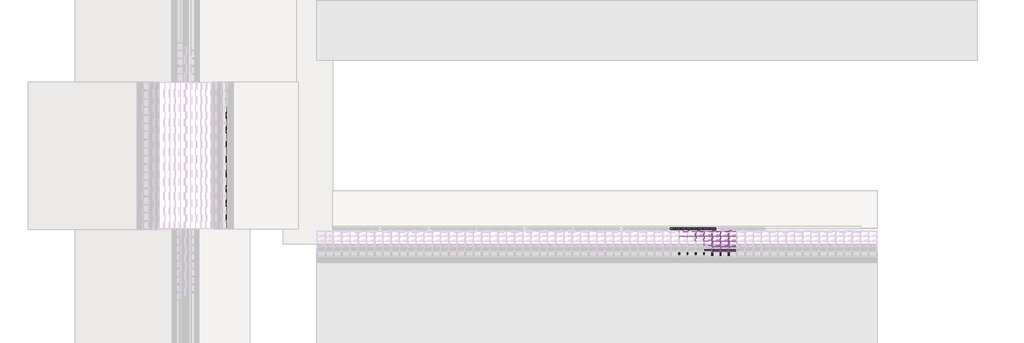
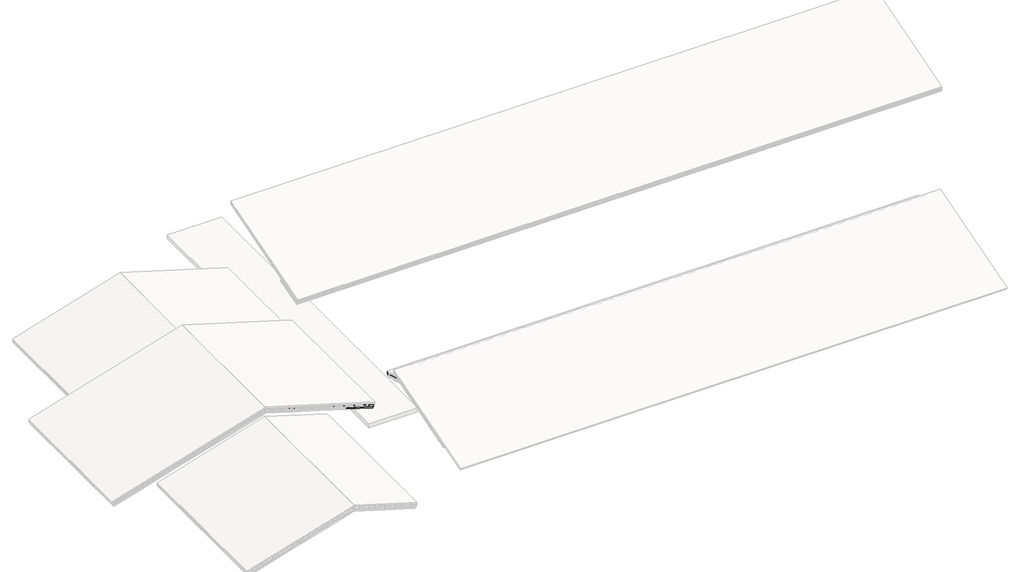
# One storey, part 41 of 57: 63 members, 56 plates, 1 window.
"""IFC4 building model written with IfcOpenShell, lengths in millimetres."""

from ifc_helpers import new_model, si_unit, origin, place, context, project, spatial, transform, mapped, element, save
from components import rectangular_mullion_4c4137b9, rectangular_mullion_59984080, rectangular_mullion_3ac3718c, rectangular_mullion_e6535fec, rectangular_mullion_65d508cb, rectangular_mullion_caibro_df98490b, rectangular_mullion_caibro_e4384bba, rectangular_mullion_caibro_0993a3cf, rectangular_mullion_caibro_650698a1, empty_system_panel_vazio_178faf58, empty_system_panel_vazio_a15e6491, empty_system_panel_vazio_d975564d, empty_system_panel_vazio_18ed3327, empty_system_panel_vazio_0a59da35, window_60306791, window_6c828501, window_02d14e1e

model = new_model("IFC4")

# Units and contexts
model_context = context("Model", 3, world=origin())
ifc_project = project(units=[si_unit("LENGTHUNIT", "METRE", prefix="MILLI")], contexts=[model_context])

# Site, building, storey
site = spatial("IfcSite", under=ifc_project)
building = spatial("IfcBuilding", under=site)
storey = spatial("IfcBuildingStorey", under=building, Name="Nível 2", Elevation=4100.0)

# Members
placement = place(None, origin())
rectangular_mullion_shape = rectangular_mullion_4c4137b9(model_context)
element("IfcMember", 1, ObjectType="Rectangular Mullion : Ripa", at=placement, inside=storey, context=model_context, shape_type="MappedRepresentation", body=[
    mapped(rectangular_mullion_shape, transform((29216.1994477, 15566.1284427, 5819.8877114), x_axis=(0.0, 0.9578262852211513, 0.2873478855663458), y_axis=(0.0, 0.2873478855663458, -0.9578262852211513), z_axis=(-1.0, 0.0, 0.0))),
])
element("IfcMember", 2, ObjectType="Rectangular Mullion : Ripa", at=placement, inside=storey, context=model_context, shape_type="MappedRepresentation", body=[
    mapped(rectangular_mullion_shape, transform((29813.2542041, 15566.1284427, 5819.8877114), x_axis=(0.0, 0.9578262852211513, 0.2873478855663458), y_axis=(0.0, 0.2873478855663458, -0.9578262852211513), z_axis=(-1.0, 0.0, 0.0))),
])
element("IfcMember", 3, ObjectType="Rectangular Mullion : Ripa", at=placement, inside=storey, context=model_context, shape_type="MappedRepresentation", body=[
    mapped(rectangular_mullion_shape, transform((30410.3089606, 15566.1284427, 5819.8877114), x_axis=(0.0, 0.9578262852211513, 0.2873478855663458), y_axis=(0.0, 0.2873478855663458, -0.9578262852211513), z_axis=(-1.0, 0.0, 0.0))),
])
element("IfcMember", 4, ObjectType="Rectangular Mullion : Ripa", at=placement, inside=storey, context=model_context, shape_type="MappedRepresentation", body=[
    mapped(rectangular_mullion_shape, transform((31007.363717, 15566.1284427, 5819.8877114), x_axis=(0.0, 0.9578262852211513, 0.2873478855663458), y_axis=(0.0, 0.2873478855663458, -0.9578262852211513), z_axis=(-1.0, 0.0, 0.0))),
])
element("IfcMember", 5, ObjectType="Rectangular Mullion : Ripa", at=placement, inside=storey, context=model_context, shape_type="MappedRepresentation", body=[
    mapped(rectangular_mullion_shape, transform((31604.4184734, 15566.1284427, 5819.8877114), x_axis=(0.0, 0.9578262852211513, 0.2873478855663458), y_axis=(0.0, 0.2873478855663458, -0.9578262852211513), z_axis=(-1.0, 0.0, 0.0))),
])
rectangular_mullion_2_shape = rectangular_mullion_59984080(model_context)
element("IfcMember", 6, ObjectType="Rectangular Mullion : Ripa", at=placement, inside=storey, context=model_context, shape_type="MappedRepresentation", body=[
    mapped(rectangular_mullion_2_shape, transform((30435.3089606, 14085.4194081, 5375.675001), x_axis=(0.0, 0.9578262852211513, 0.2873478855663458), y_axis=(0.0, 0.2873478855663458, -0.9578262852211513), z_axis=(-1.0, 0.0, 0.0))),
])
element("IfcMember", 7, ObjectType="Rectangular Mullion : Ripa", at=placement, inside=storey, context=model_context, shape_type="MappedRepresentation", body=[
    mapped(rectangular_mullion_2_shape, transform((31032.363717, 14085.4194081, 5375.675001), x_axis=(0.0, 0.9578262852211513, 0.2873478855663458), y_axis=(0.0, 0.2873478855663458, -0.9578262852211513), z_axis=(-1.0, 0.0, 0.0))),
])
element("IfcMember", 8, ObjectType="Rectangular Mullion : Ripa", at=placement, inside=storey, context=model_context, shape_type="MappedRepresentation", body=[
    mapped(rectangular_mullion_2_shape, transform((31629.4184734, 14085.4194081, 5375.675001), x_axis=(0.0, 0.9578262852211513, 0.2873478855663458), y_axis=(0.0, 0.2873478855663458, -0.9578262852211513), z_axis=(-1.0, 0.0, 0.0))),
])
element("IfcMember", 9, ObjectType="Rectangular Mullion : Ripa", at=placement, inside=storey, context=model_context, shape_type="MappedRepresentation", body=[
    mapped(rectangular_mullion_2_shape, transform((30435.3089606, 14455.5966667, 5486.7281786), x_axis=(0.0, 0.9578262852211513, 0.2873478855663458), y_axis=(0.0, 0.2873478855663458, -0.9578262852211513), z_axis=(-1.0, 0.0, 0.0))),
])
element("IfcMember", 10, ObjectType="Rectangular Mullion : Ripa", at=placement, inside=storey, context=model_context, shape_type="MappedRepresentation", body=[
    mapped(rectangular_mullion_2_shape, transform((31032.363717, 14455.5966667, 5486.7281786), x_axis=(0.0, 0.9578262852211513, 0.2873478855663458), y_axis=(0.0, 0.2873478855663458, -0.9578262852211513), z_axis=(-1.0, 0.0, 0.0))),
])
element("IfcMember", 11, ObjectType="Rectangular Mullion : Ripa", at=placement, inside=storey, context=model_context, shape_type="MappedRepresentation", body=[
    mapped(rectangular_mullion_2_shape, transform((31629.4184734, 14455.5966667, 5486.7281786), x_axis=(0.0, 0.9578262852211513, 0.2873478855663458), y_axis=(0.0, 0.2873478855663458, -0.9578262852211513), z_axis=(-1.0, 0.0, 0.0))),
])
element("IfcMember", 12, ObjectType="Rectangular Mullion : Ripa", at=placement, inside=storey, context=model_context, shape_type="MappedRepresentation", body=[
    mapped(rectangular_mullion_2_shape, transform((30435.3089606, 14825.7739254, 5597.7813562), x_axis=(0.0, 0.9578262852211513, 0.2873478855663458), y_axis=(0.0, 0.2873478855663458, -0.9578262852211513), z_axis=(-1.0, 0.0, 0.0))),
])
element("IfcMember", 13, ObjectType="Rectangular Mullion : Ripa", at=placement, inside=storey, context=model_context, shape_type="MappedRepresentation", body=[
    mapped(rectangular_mullion_2_shape, transform((31032.363717, 14825.7739254, 5597.7813562), x_axis=(0.0, 0.9578262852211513, 0.2873478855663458), y_axis=(0.0, 0.2873478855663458, -0.9578262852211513), z_axis=(-1.0, 0.0, 0.0))),
])
element("IfcMember", 14, ObjectType="Rectangular Mullion : Ripa", at=placement, inside=storey, context=model_context, shape_type="MappedRepresentation", body=[
    mapped(rectangular_mullion_2_shape, transform((31629.4184734, 14825.7739254, 5597.7813562), x_axis=(0.0, 0.9578262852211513, 0.2873478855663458), y_axis=(0.0, 0.2873478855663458, -0.9578262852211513), z_axis=(-1.0, 0.0, 0.0))),
])
element("IfcMember", 15, ObjectType="Rectangular Mullion : Ripa", at=placement, inside=storey, context=model_context, shape_type="MappedRepresentation", body=[
    mapped(rectangular_mullion_2_shape, transform((28047.0899349, 15195.9511841, 5708.8345338), x_axis=(0.0, 0.9578262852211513, 0.2873478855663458), y_axis=(0.0, 0.2873478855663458, -0.9578262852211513), z_axis=(-1.0, 0.0, 0.0))),
])
element("IfcMember", 16, ObjectType="Rectangular Mullion : Ripa", at=placement, inside=storey, context=model_context, shape_type="MappedRepresentation", body=[
    mapped(rectangular_mullion_2_shape, transform((28644.1446913, 15195.9511841, 5708.8345338), x_axis=(0.0, 0.9578262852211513, 0.2873478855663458), y_axis=(0.0, 0.2873478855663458, -0.9578262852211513), z_axis=(-1.0, 0.0, 0.0))),
])
element("IfcMember", 17, ObjectType="Rectangular Mullion : Ripa", at=placement, inside=storey, context=model_context, shape_type="MappedRepresentation", body=[
    mapped(rectangular_mullion_2_shape, transform((29241.1994477, 15195.9511841, 5708.8345338), x_axis=(0.0, 0.9578262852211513, 0.2873478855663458), y_axis=(0.0, 0.2873478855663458, -0.9578262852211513), z_axis=(-1.0, 0.0, 0.0))),
])
element("IfcMember", 18, ObjectType="Rectangular Mullion : Ripa", at=placement, inside=storey, context=model_context, shape_type="MappedRepresentation", body=[
    mapped(rectangular_mullion_2_shape, transform((29838.2542041, 15195.9511841, 5708.8345338), x_axis=(0.0, 0.9578262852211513, 0.2873478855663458), y_axis=(0.0, 0.2873478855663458, -0.9578262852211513), z_axis=(-1.0, 0.0, 0.0))),
])
element("IfcMember", 19, ObjectType="Rectangular Mullion : Ripa", at=placement, inside=storey, context=model_context, shape_type="MappedRepresentation", body=[
    mapped(rectangular_mullion_2_shape, transform((30435.3089606, 15195.9511841, 5708.8345338), x_axis=(0.0, 0.9578262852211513, 0.2873478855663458), y_axis=(0.0, 0.2873478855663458, -0.9578262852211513), z_axis=(-1.0, 0.0, 0.0))),
])
element("IfcMember", 20, ObjectType="Rectangular Mullion : Ripa", at=placement, inside=storey, context=model_context, shape_type="MappedRepresentation", body=[
    mapped(rectangular_mullion_2_shape, transform((31032.363717, 15195.9511841, 5708.8345338), x_axis=(0.0, 0.9578262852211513, 0.2873478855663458), y_axis=(0.0, 0.2873478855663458, -0.9578262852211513), z_axis=(-1.0, 0.0, 0.0))),
])
element("IfcMember", 21, ObjectType="Rectangular Mullion : Ripa", at=placement, inside=storey, context=model_context, shape_type="MappedRepresentation", body=[
    mapped(rectangular_mullion_2_shape, transform((31629.4184734, 15195.9511841, 5708.8345338), x_axis=(0.0, 0.9578262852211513, 0.2873478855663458), y_axis=(0.0, 0.2873478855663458, -0.9578262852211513), z_axis=(-1.0, 0.0, 0.0))),
])
rectangular_mullion_3_shape = rectangular_mullion_3ac3718c(model_context)
element("IfcMember", 22, ObjectType="Rectangular Mullion : Terça", at=placement, inside=storey, context=model_context, shape_type="MappedRepresentation", body=[
    mapped(rectangular_mullion_3_shape, transform((28022.0899349, 15566.1284427, 5757.2458723), x_axis=(0.0, 0.9578262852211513, 0.2873478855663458), y_axis=(0.0, 0.2873478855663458, -0.9578262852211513), z_axis=(-1.0, 0.0, 0.0))),
])
element("IfcMember", 23, ObjectType="Rectangular Mullion : Terça", at=placement, inside=storey, context=model_context, shape_type="MappedRepresentation", body=[
    mapped(rectangular_mullion_3_shape, transform((28619.1446913, 15566.1284427, 5757.2458723), x_axis=(0.0, 0.9578262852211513, 0.2873478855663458), y_axis=(0.0, 0.2873478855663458, -0.9578262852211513), z_axis=(-1.0, 0.0, 0.0))),
])
element("IfcMember", 24, ObjectType="Rectangular Mullion : Terça", at=placement, inside=storey, context=model_context, shape_type="MappedRepresentation", body=[
    mapped(rectangular_mullion_3_shape, transform((29216.1994477, 15566.1284427, 5757.2458723), x_axis=(0.0, 0.9578262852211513, 0.2873478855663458), y_axis=(0.0, 0.2873478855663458, -0.9578262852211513), z_axis=(-1.0, 0.0, 0.0))),
])
element("IfcMember", 25, ObjectType="Rectangular Mullion : Terça", at=placement, inside=storey, context=model_context, shape_type="MappedRepresentation", body=[
    mapped(rectangular_mullion_3_shape, transform((29813.2542041, 15566.1284427, 5757.2458723), x_axis=(0.0, 0.9578262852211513, 0.2873478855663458), y_axis=(0.0, 0.2873478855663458, -0.9578262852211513), z_axis=(-1.0, 0.0, 0.0))),
])
element("IfcMember", 26, ObjectType="Rectangular Mullion : Terça", at=placement, inside=storey, context=model_context, shape_type="MappedRepresentation", body=[
    mapped(rectangular_mullion_3_shape, transform((30410.3089606, 15566.1284427, 5757.2458723), x_axis=(0.0, 0.9578262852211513, 0.2873478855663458), y_axis=(0.0, 0.2873478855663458, -0.9578262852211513), z_axis=(-1.0, 0.0, 0.0))),
])
element("IfcMember", 27, ObjectType="Rectangular Mullion : Terça", at=placement, inside=storey, context=model_context, shape_type="MappedRepresentation", body=[
    mapped(rectangular_mullion_3_shape, transform((31007.363717, 15566.1284427, 5757.2458723), x_axis=(0.0, 0.9578262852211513, 0.2873478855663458), y_axis=(0.0, 0.2873478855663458, -0.9578262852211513), z_axis=(-1.0, 0.0, 0.0))),
])
element("IfcMember", 28, ObjectType="Rectangular Mullion : Terça", at=placement, inside=storey, context=model_context, shape_type="MappedRepresentation", body=[
    mapped(rectangular_mullion_3_shape, transform((31604.4184734, 15566.1284427, 5757.2458723), x_axis=(0.0, 0.9578262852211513, 0.2873478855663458), y_axis=(0.0, 0.2873478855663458, -0.9578262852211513), z_axis=(-1.0, 0.0, 0.0))),
])
rectangular_mullion_4_shape = rectangular_mullion_e6535fec(model_context)
element("IfcMember", 29, ObjectType="Rectangular Mullion : Ripa", at=placement, inside=storey, context=model_context, shape_type="MappedRepresentation", body=[
    mapped(rectangular_mullion_4_shape, transform((2901.5285525, 18412.4514592, 3618.6204366), x_axis=(0.0, 0.9578262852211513, -0.2873478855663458), y_axis=(0.0, -0.2873478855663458, -0.9578262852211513), z_axis=(-1.0, 0.0, 0.0))),
])
rectangular_mullion_5_shape = rectangular_mullion_65d508cb(model_context)
element("IfcMember", 30, ObjectType="Rectangular Mullion : Terça", at=placement, inside=storey, context=model_context, shape_type="MappedRepresentation", body=[
    mapped(rectangular_mullion_5_shape, transform((2901.5285525, 18413.2710336, 3495.9785975), x_axis=(0.0, 0.9578262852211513, -0.2873478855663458), y_axis=(0.0, -0.2873478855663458, -0.9578262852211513), z_axis=(-1.0, 0.0, 0.0))),
])
rectangular_mullion_caibro_shape = rectangular_mullion_caibro_df98490b(model_context)
element("IfcMember", 31, ObjectType="Rectangular Mullion : Caibro", at=placement, inside=storey, context=model_context, shape_type="MappedRepresentation", body=[
    mapped(rectangular_mullion_caibro_shape, transform((29216.1994477, 15518.2371285, 5805.5203171), x_axis=(1.0, 0.0, 0.0), y_axis=(0.0, 0.28734788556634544, -0.9578262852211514), z_axis=(0.0, 0.9578262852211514, 0.28734788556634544))),
])
element("IfcMember", 32, ObjectType="Rectangular Mullion : Caibro", at=placement, inside=storey, context=model_context, shape_type="MappedRepresentation", body=[
    mapped(rectangular_mullion_caibro_shape, transform((29813.2542041, 15518.2371285, 5805.5203171), x_axis=(1.0, 0.0, 0.0), y_axis=(0.0, 0.28734788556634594, -0.9578262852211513), z_axis=(0.0, 0.9578262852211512, 0.2873478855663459))),
])
element("IfcMember", 33, ObjectType="Rectangular Mullion : Caibro", at=placement, inside=storey, context=model_context, shape_type="MappedRepresentation", body=[
    mapped(rectangular_mullion_caibro_shape, transform((30410.3089606, 15518.2371285, 5805.5203171), x_axis=(1.0, 0.0, 0.0), y_axis=(0.0, 0.28734788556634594, -0.9578262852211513), z_axis=(0.0, 0.9578262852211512, 0.2873478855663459))),
])
element("IfcMember", 34, ObjectType="Rectangular Mullion : Caibro", at=placement, inside=storey, context=model_context, shape_type="MappedRepresentation", body=[
    mapped(rectangular_mullion_caibro_shape, transform((31007.363717, 15518.2371285, 5805.5203171), x_axis=(1.0, 0.0, 0.0), y_axis=(0.0, 0.28734788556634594, -0.9578262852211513), z_axis=(0.0, 0.9578262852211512, 0.2873478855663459))),
])
element("IfcMember", 35, ObjectType="Rectangular Mullion : Caibro", at=placement, inside=storey, context=model_context, shape_type="MappedRepresentation", body=[
    mapped(rectangular_mullion_caibro_shape, transform((31604.4184734, 15518.2371285, 5805.5203171), x_axis=(1.0, 0.0, 0.0), y_axis=(0.0, 0.28734788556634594, -0.9578262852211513), z_axis=(0.0, 0.9578262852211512, 0.2873478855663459))),
])
rectangular_mullion_caibro_2_shape = rectangular_mullion_caibro_e4384bba(model_context)
element("IfcMember", 36, ObjectType="Rectangular Mullion : Caibro", at=placement, inside=storey, context=model_context, shape_type="MappedRepresentation", body=[
    mapped(rectangular_mullion_caibro_2_shape, transform((29216.1994477, 15195.9511841, 5708.8345338), x_axis=(1.0, 0.0, 0.0), y_axis=(0.0, 0.28734788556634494, -0.9578262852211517), z_axis=(0.0, 0.9578262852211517, 0.28734788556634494))),
])
element("IfcMember", 37, ObjectType="Rectangular Mullion : Caibro", at=placement, inside=storey, context=model_context, shape_type="MappedRepresentation", body=[
    mapped(rectangular_mullion_caibro_2_shape, transform((29813.2542041, 15195.9511841, 5708.8345338), x_axis=(1.0, 0.0, 0.0), y_axis=(0.0, 0.28734788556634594, -0.9578262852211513), z_axis=(0.0, 0.9578262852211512, 0.2873478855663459))),
])
element("IfcMember", 38, ObjectType="Rectangular Mullion : Caibro", at=placement, inside=storey, context=model_context, shape_type="MappedRepresentation", body=[
    mapped(rectangular_mullion_caibro_2_shape, transform((30410.3089606, 14085.4194081, 5375.675001), x_axis=(1.0, 0.0, 0.0), y_axis=(0.0, 0.28734788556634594, -0.9578262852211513), z_axis=(0.0, 0.9578262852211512, 0.2873478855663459))),
])
element("IfcMember", 39, ObjectType="Rectangular Mullion : Caibro", at=placement, inside=storey, context=model_context, shape_type="MappedRepresentation", body=[
    mapped(rectangular_mullion_caibro_2_shape, transform((30410.3089606, 14455.5966667, 5486.7281786), x_axis=(1.0, 0.0, 0.0), y_axis=(0.0, 0.28734788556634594, -0.9578262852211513), z_axis=(0.0, 0.9578262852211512, 0.2873478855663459))),
])
element("IfcMember", 40, ObjectType="Rectangular Mullion : Caibro", at=placement, inside=storey, context=model_context, shape_type="MappedRepresentation", body=[
    mapped(rectangular_mullion_caibro_2_shape, transform((30410.3089606, 14825.7739254, 5597.7813562), x_axis=(1.0, 0.0, 0.0), y_axis=(0.0, 0.28734788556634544, -0.9578262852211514), z_axis=(0.0, 0.9578262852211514, 0.28734788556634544))),
])
element("IfcMember", 41, ObjectType="Rectangular Mullion : Caibro", at=placement, inside=storey, context=model_context, shape_type="MappedRepresentation", body=[
    mapped(rectangular_mullion_caibro_2_shape, transform((30410.3089606, 15195.9511841, 5708.8345338), x_axis=(1.0, 0.0, 0.0), y_axis=(0.0, 0.28734788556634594, -0.9578262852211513), z_axis=(0.0, 0.9578262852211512, 0.2873478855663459))),
])
element("IfcMember", 42, ObjectType="Rectangular Mullion : Caibro", at=placement, inside=storey, context=model_context, shape_type="MappedRepresentation", body=[
    mapped(rectangular_mullion_caibro_2_shape, transform((31007.363717, 14085.4194081, 5375.675001), x_axis=(1.0, 0.0, 0.0), y_axis=(0.0, 0.28734788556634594, -0.9578262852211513), z_axis=(0.0, 0.9578262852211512, 0.2873478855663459))),
])
element("IfcMember", 43, ObjectType="Rectangular Mullion : Caibro", at=placement, inside=storey, context=model_context, shape_type="MappedRepresentation", body=[
    mapped(rectangular_mullion_caibro_2_shape, transform((31007.363717, 14455.5966667, 5486.7281786), x_axis=(1.0, 0.0, 0.0), y_axis=(0.0, 0.28734788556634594, -0.9578262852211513), z_axis=(0.0, 0.9578262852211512, 0.2873478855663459))),
])
element("IfcMember", 44, ObjectType="Rectangular Mullion : Caibro", at=placement, inside=storey, context=model_context, shape_type="MappedRepresentation", body=[
    mapped(rectangular_mullion_caibro_2_shape, transform((31007.363717, 14825.7739254, 5597.7813562), x_axis=(1.0, 0.0, 0.0), y_axis=(0.0, 0.28734788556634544, -0.9578262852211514), z_axis=(0.0, 0.9578262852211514, 0.28734788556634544))),
])
element("IfcMember", 45, ObjectType="Rectangular Mullion : Caibro", at=placement, inside=storey, context=model_context, shape_type="MappedRepresentation", body=[
    mapped(rectangular_mullion_caibro_2_shape, transform((31007.363717, 15195.9511841, 5708.8345338), x_axis=(1.0, 0.0, 0.0), y_axis=(0.0, 0.28734788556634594, -0.9578262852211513), z_axis=(0.0, 0.9578262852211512, 0.2873478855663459))),
])
element("IfcMember", 46, ObjectType="Rectangular Mullion : Caibro", at=placement, inside=storey, context=model_context, shape_type="MappedRepresentation", body=[
    mapped(rectangular_mullion_caibro_2_shape, transform((31604.4184734, 14085.4194081, 5375.675001), x_axis=(1.0, 0.0, 0.0), y_axis=(0.0, 0.28734788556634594, -0.9578262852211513), z_axis=(0.0, 0.9578262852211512, 0.2873478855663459))),
])
element("IfcMember", 47, ObjectType="Rectangular Mullion : Caibro", at=placement, inside=storey, context=model_context, shape_type="MappedRepresentation", body=[
    mapped(rectangular_mullion_caibro_2_shape, transform((31604.4184734, 14455.5966667, 5486.7281786), x_axis=(1.0, 0.0, 0.0), y_axis=(0.0, 0.28734788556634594, -0.9578262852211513), z_axis=(0.0, 0.9578262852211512, 0.2873478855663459))),
])
element("IfcMember", 48, ObjectType="Rectangular Mullion : Caibro", at=placement, inside=storey, context=model_context, shape_type="MappedRepresentation", body=[
    mapped(rectangular_mullion_caibro_2_shape, transform((31604.4184734, 14825.7739254, 5597.7813562), x_axis=(1.0, 0.0, 0.0), y_axis=(0.0, 0.28734788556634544, -0.9578262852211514), z_axis=(0.0, 0.9578262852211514, 0.28734788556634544))),
])
element("IfcMember", 49, ObjectType="Rectangular Mullion : Caibro", at=placement, inside=storey, context=model_context, shape_type="MappedRepresentation", body=[
    mapped(rectangular_mullion_caibro_2_shape, transform((31604.4184734, 15195.9511841, 5708.8345338), x_axis=(1.0, 0.0, 0.0), y_axis=(0.0, 0.28734788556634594, -0.9578262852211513), z_axis=(0.0, 0.9578262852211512, 0.2873478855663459))),
])
rectangular_mullion_caibro_3_shape = rectangular_mullion_caibro_0993a3cf(model_context)
element("IfcMember", 50, ObjectType="Rectangular Mullion : Caibro", at=placement, inside=storey, context=model_context, shape_type="MappedRepresentation", body=[
    mapped(rectangular_mullion_caibro_3_shape, transform((28022.0899349, 15508.6588656, 5740.0049992), x_axis=(1.0, 0.0, 0.0), y_axis=(0.0, 0.28734788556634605, -0.9578262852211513), z_axis=(0.0, 0.9578262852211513, 0.28734788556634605))),
])
element("IfcMember", 51, ObjectType="Rectangular Mullion : Caibro", at=placement, inside=storey, context=model_context, shape_type="MappedRepresentation", body=[
    mapped(rectangular_mullion_caibro_3_shape, transform((28619.1446913, 15508.6588656, 5740.0049992), x_axis=(1.0, 0.0, 0.0), y_axis=(0.0, 0.28734788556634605, -0.9578262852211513), z_axis=(0.0, 0.9578262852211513, 0.28734788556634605))),
])
element("IfcMember", 52, ObjectType="Rectangular Mullion : Caibro", at=placement, inside=storey, context=model_context, shape_type="MappedRepresentation", body=[
    mapped(rectangular_mullion_caibro_3_shape, transform((29216.1994477, 15508.6588656, 5740.0049992), x_axis=(1.0, 0.0, 0.0), y_axis=(0.0, 0.28734788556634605, -0.9578262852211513), z_axis=(0.0, 0.9578262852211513, 0.28734788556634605))),
])
element("IfcMember", 53, ObjectType="Rectangular Mullion : Caibro", at=placement, inside=storey, context=model_context, shape_type="MappedRepresentation", body=[
    mapped(rectangular_mullion_caibro_3_shape, transform((29813.2542041, 15508.6588656, 5740.0049992), x_axis=(1.0, 0.0, 0.0), y_axis=(0.0, 0.28734788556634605, -0.9578262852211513), z_axis=(0.0, 0.9578262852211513, 0.28734788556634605))),
])
element("IfcMember", 54, ObjectType="Rectangular Mullion : Caibro", at=placement, inside=storey, context=model_context, shape_type="MappedRepresentation", body=[
    mapped(rectangular_mullion_caibro_3_shape, transform((30410.3089606, 15508.6588656, 5740.0049992), x_axis=(1.0, 0.0, 0.0), y_axis=(0.0, 0.28734788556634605, -0.9578262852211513), z_axis=(0.0, 0.9578262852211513, 0.28734788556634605))),
])
element("IfcMember", 55, ObjectType="Rectangular Mullion : Caibro", at=placement, inside=storey, context=model_context, shape_type="MappedRepresentation", body=[
    mapped(rectangular_mullion_caibro_3_shape, transform((31007.363717, 15508.6588656, 5740.0049992), x_axis=(1.0, 0.0, 0.0), y_axis=(0.0, 0.28734788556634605, -0.9578262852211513), z_axis=(0.0, 0.9578262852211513, 0.28734788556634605))),
])
element("IfcMember", 56, ObjectType="Rectangular Mullion : Caibro", at=placement, inside=storey, context=model_context, shape_type="MappedRepresentation", body=[
    mapped(rectangular_mullion_caibro_3_shape, transform((31604.4184734, 15508.6588656, 5740.0049992), x_axis=(1.0, 0.0, 0.0), y_axis=(0.0, 0.28734788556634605, -0.9578262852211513), z_axis=(0.0, 0.9578262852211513, 0.28734788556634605))),
])
rectangular_mullion_caibro_4_shape = rectangular_mullion_caibro_650698a1(model_context)
element("IfcMember", 57, ObjectType="Rectangular Mullion : Caibro", at=placement, inside=storey, context=model_context, shape_type="MappedRepresentation", body=[
    mapped(rectangular_mullion_caibro_4_shape, transform((31599.2566328, 15772.0058221, 4410.7541277), x_axis=(-1.0, 0.0, 0.0), y_axis=(0.0, -0.2873478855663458, -0.9578262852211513), z_axis=(0.0, -0.9578262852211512, 0.2873478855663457))),
])
element("IfcMember", 58, ObjectType="Rectangular Mullion : Caibro", at=placement, inside=storey, context=model_context, shape_type="MappedRepresentation", body=[
    mapped(rectangular_mullion_caibro_4_shape, transform((31001.9081311, 15772.0058221, 4410.7541277), x_axis=(-1.0, 0.0, 0.0), y_axis=(0.0, -0.2873478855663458, -0.9578262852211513), z_axis=(0.0, -0.9578262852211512, 0.2873478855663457))),
])
element("IfcMember", 59, ObjectType="Rectangular Mullion : Caibro", at=placement, inside=storey, context=model_context, shape_type="MappedRepresentation", body=[
    mapped(rectangular_mullion_caibro_4_shape, transform((30404.5596294, 15772.0058221, 4410.7541277), x_axis=(-1.0, 0.0, 0.0), y_axis=(0.0, -0.2873478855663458, -0.9578262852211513), z_axis=(0.0, -0.9578262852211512, 0.2873478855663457))),
])
element("IfcMember", 60, ObjectType="Rectangular Mullion : Caibro", at=placement, inside=storey, context=model_context, shape_type="MappedRepresentation", body=[
    mapped(rectangular_mullion_caibro_4_shape, transform((29807.2111278, 15772.0058221, 4410.7541277), x_axis=(-1.0, 0.0, 0.0), y_axis=(0.0, -0.2873478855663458, -0.9578262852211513), z_axis=(0.0, -0.9578262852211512, 0.2873478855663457))),
])
element("IfcMember", 61, ObjectType="Rectangular Mullion : Caibro", at=placement, inside=storey, context=model_context, shape_type="MappedRepresentation", body=[
    mapped(rectangular_mullion_caibro_4_shape, transform((29209.8626261, 15772.0058221, 4410.7541277), x_axis=(-1.0, 0.0, 0.0), y_axis=(0.0, -0.2873478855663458, -0.9578262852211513), z_axis=(0.0, -0.9578262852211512, 0.2873478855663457))),
])
element("IfcMember", 62, ObjectType="Rectangular Mullion : Caibro", at=placement, inside=storey, context=model_context, shape_type="MappedRepresentation", body=[
    mapped(rectangular_mullion_caibro_4_shape, transform((28612.5141244, 15772.0058221, 4410.7541277), x_axis=(-1.0, 0.0, 0.0), y_axis=(0.0, -0.2873478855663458, -0.9578262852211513), z_axis=(0.0, -0.9578262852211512, 0.2873478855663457))),
])
element("IfcMember", 63, ObjectType="Rectangular Mullion : Caibro", at=placement, inside=storey, context=model_context, shape_type="MappedRepresentation", body=[
    mapped(rectangular_mullion_caibro_4_shape, transform((28015.1656228, 15772.0058221, 4410.7541277), x_axis=(-1.0, 0.0, 0.0), y_axis=(0.0, -0.2873478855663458, -0.9578262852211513), z_axis=(0.0, -0.9578262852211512, 0.2873478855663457))),
])

# Plates
empty_system_panel_vazio_shape = empty_system_panel_vazio_178faf58(model_context)
element("IfcPlate", 64, ObjectType="Empty System Panel : Vazio", at=placement, inside=storey, context=model_context, shape_type="MappedRepresentation", body=[
    mapped(empty_system_panel_vazio_shape, transform((30111.7815823, 14085.4194081, 5375.675001), x_axis=(1.0, 0.0, 0.0), y_axis=(0.0, 0.2873478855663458, -0.9578262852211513), z_axis=(0.0, 0.9578262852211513, 0.2873478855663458))),
])
element("IfcPlate", 65, ObjectType="Empty System Panel : Vazio", at=placement, inside=storey, context=model_context, shape_type="MappedRepresentation", body=[
    mapped(empty_system_panel_vazio_shape, transform((30708.8363388, 14085.4194081, 5375.675001), x_axis=(1.0, 0.0, 0.0), y_axis=(0.0, 0.2873478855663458, -0.9578262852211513), z_axis=(0.0, 0.9578262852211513, 0.2873478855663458))),
])
element("IfcPlate", 66, ObjectType="Empty System Panel : Vazio", at=placement, inside=storey, context=model_context, shape_type="MappedRepresentation", body=[
    mapped(empty_system_panel_vazio_shape, transform((31305.8910952, 14085.4194081, 5375.675001), x_axis=(1.0, 0.0, 0.0), y_axis=(0.0, 0.2873478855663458, -0.9578262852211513), z_axis=(0.0, 0.9578262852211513, 0.2873478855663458))),
])
element("IfcPlate", 67, ObjectType="Empty System Panel : Vazio", at=placement, inside=storey, context=model_context, shape_type="MappedRepresentation", body=[
    mapped(empty_system_panel_vazio_shape, transform((31902.9458516, 14085.4194081, 5375.675001), x_axis=(1.0, 0.0, 0.0), y_axis=(0.0, 0.2873478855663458, -0.9578262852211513), z_axis=(0.0, 0.9578262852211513, 0.2873478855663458))),
])
element("IfcPlate", 68, ObjectType="Empty System Panel : Vazio", at=placement, inside=storey, context=model_context, shape_type="MappedRepresentation", body=[
    mapped(empty_system_panel_vazio_shape, transform((30111.7815823, 14455.5966667, 5486.7281786), x_axis=(1.0, 0.0, 0.0), y_axis=(0.0, 0.2873478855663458, -0.9578262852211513), z_axis=(0.0, 0.9578262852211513, 0.2873478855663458))),
])
element("IfcPlate", 69, ObjectType="Empty System Panel : Vazio", at=placement, inside=storey, context=model_context, shape_type="MappedRepresentation", body=[
    mapped(empty_system_panel_vazio_shape, transform((30708.8363388, 14455.5966667, 5486.7281786), x_axis=(1.0, 0.0, 0.0), y_axis=(0.0, 0.2873478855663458, -0.9578262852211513), z_axis=(0.0, 0.9578262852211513, 0.2873478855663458))),
])
element("IfcPlate", 70, ObjectType="Empty System Panel : Vazio", at=placement, inside=storey, context=model_context, shape_type="MappedRepresentation", body=[
    mapped(empty_system_panel_vazio_shape, transform((31305.8910952, 14455.5966667, 5486.7281786), x_axis=(1.0, 0.0, 0.0), y_axis=(0.0, 0.2873478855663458, -0.9578262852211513), z_axis=(0.0, 0.9578262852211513, 0.2873478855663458))),
])
element("IfcPlate", 71, ObjectType="Empty System Panel : Vazio", at=placement, inside=storey, context=model_context, shape_type="MappedRepresentation", body=[
    mapped(empty_system_panel_vazio_shape, transform((31902.9458516, 14455.5966667, 5486.7281786), x_axis=(1.0, 0.0, 0.0), y_axis=(0.0, 0.2873478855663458, -0.9578262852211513), z_axis=(0.0, 0.9578262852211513, 0.2873478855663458))),
])
element("IfcPlate", 72, ObjectType="Empty System Panel : Vazio", at=placement, inside=storey, context=model_context, shape_type="MappedRepresentation", body=[
    mapped(empty_system_panel_vazio_shape, transform((30111.7815823, 14825.7739254, 5597.7813562), x_axis=(1.0, 0.0, 0.0), y_axis=(0.0, 0.2873478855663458, -0.9578262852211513), z_axis=(0.0, 0.9578262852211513, 0.2873478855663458))),
])
element("IfcPlate", 73, ObjectType="Empty System Panel : Vazio", at=placement, inside=storey, context=model_context, shape_type="MappedRepresentation", body=[
    mapped(empty_system_panel_vazio_shape, transform((30708.8363388, 14825.7739254, 5597.7813562), x_axis=(1.0, 0.0, 0.0), y_axis=(0.0, 0.2873478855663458, -0.9578262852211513), z_axis=(0.0, 0.9578262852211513, 0.2873478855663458))),
])
element("IfcPlate", 74, ObjectType="Empty System Panel : Vazio", at=placement, inside=storey, context=model_context, shape_type="MappedRepresentation", body=[
    mapped(empty_system_panel_vazio_shape, transform((31305.8910952, 14825.7739254, 5597.7813562), x_axis=(1.0, 0.0, 0.0), y_axis=(0.0, 0.2873478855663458, -0.9578262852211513), z_axis=(0.0, 0.9578262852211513, 0.2873478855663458))),
])
element("IfcPlate", 75, ObjectType="Empty System Panel : Vazio", at=placement, inside=storey, context=model_context, shape_type="MappedRepresentation", body=[
    mapped(empty_system_panel_vazio_shape, transform((31902.9458516, 14825.7739254, 5597.7813562), x_axis=(1.0, 0.0, 0.0), y_axis=(0.0, 0.2873478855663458, -0.9578262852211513), z_axis=(0.0, 0.9578262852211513, 0.2873478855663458))),
])
element("IfcPlate", 76, ObjectType="Empty System Panel : Vazio", at=placement, inside=storey, context=model_context, shape_type="MappedRepresentation", body=[
    mapped(empty_system_panel_vazio_shape, transform((29514.7268259, 15195.9511841, 5708.8345338), x_axis=(1.0, 0.0, 0.0), y_axis=(0.0, 0.2873478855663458, -0.9578262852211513), z_axis=(0.0, 0.9578262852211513, 0.2873478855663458))),
])
element("IfcPlate", 77, ObjectType="Empty System Panel : Vazio", at=placement, inside=storey, context=model_context, shape_type="MappedRepresentation", body=[
    mapped(empty_system_panel_vazio_shape, transform((30111.7815823, 15195.9511841, 5708.8345338), x_axis=(1.0, 0.0, 0.0), y_axis=(0.0, 0.2873478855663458, -0.9578262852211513), z_axis=(0.0, 0.9578262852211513, 0.2873478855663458))),
])
element("IfcPlate", 78, ObjectType="Empty System Panel : Vazio", at=placement, inside=storey, context=model_context, shape_type="MappedRepresentation", body=[
    mapped(empty_system_panel_vazio_shape, transform((30708.8363388, 15195.9511841, 5708.8345338), x_axis=(1.0, 0.0, 0.0), y_axis=(0.0, 0.2873478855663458, -0.9578262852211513), z_axis=(0.0, 0.9578262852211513, 0.2873478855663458))),
])
element("IfcPlate", 79, ObjectType="Empty System Panel : Vazio", at=placement, inside=storey, context=model_context, shape_type="MappedRepresentation", body=[
    mapped(empty_system_panel_vazio_shape, transform((31305.8910952, 15195.9511841, 5708.8345338), x_axis=(1.0, 0.0, 0.0), y_axis=(0.0, 0.2873478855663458, -0.9578262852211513), z_axis=(0.0, 0.9578262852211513, 0.2873478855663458))),
])
element("IfcPlate", 80, ObjectType="Empty System Panel : Vazio", at=placement, inside=storey, context=model_context, shape_type="MappedRepresentation", body=[
    mapped(empty_system_panel_vazio_shape, transform((31902.9458516, 15195.9511841, 5708.8345338), x_axis=(1.0, 0.0, 0.0), y_axis=(0.0, 0.2873478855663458, -0.9578262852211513), z_axis=(0.0, 0.9578262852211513, 0.2873478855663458))),
])
empty_system_panel_vazio_2_shape = empty_system_panel_vazio_a15e6491(model_context)
element("IfcPlate", 81, ObjectType="Empty System Panel : Vazio", at=placement, inside=storey, context=model_context, shape_type="MappedRepresentation", body=[
    mapped(empty_system_panel_vazio_2_shape, transform((347.7937639, 16009.8968274, 3724.0681378), x_axis=(0.0, 1.0, 0.0), y_axis=(-0.287347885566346, 0.0, -0.9578262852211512), z_axis=(-0.9578262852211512, 0.0, 0.287347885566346))),
])
element("IfcPlate", 82, ObjectType="Empty System Panel : Vazio", at=placement, inside=storey, context=model_context, shape_type="MappedRepresentation", body=[
    mapped(empty_system_panel_vazio_2_shape, transform((347.7937639, 16599.3489442, 3724.0681378), x_axis=(0.0, 1.0, 0.0), y_axis=(-0.287347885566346, 0.0, -0.9578262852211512), z_axis=(-0.9578262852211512, 0.0, 0.287347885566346))),
])
element("IfcPlate", 83, ObjectType="Empty System Panel : Vazio", at=placement, inside=storey, context=model_context, shape_type="MappedRepresentation", body=[
    mapped(empty_system_panel_vazio_2_shape, transform((347.7937639, 17188.8010608, 3724.0681378), x_axis=(0.0, 1.0, 0.0), y_axis=(-0.287347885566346, 0.0, -0.9578262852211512), z_axis=(-0.9578262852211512, 0.0, 0.287347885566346))),
])
element("IfcPlate", 84, ObjectType="Empty System Panel : Vazio", at=placement, inside=storey, context=model_context, shape_type="MappedRepresentation", body=[
    mapped(empty_system_panel_vazio_2_shape, transform((347.7937639, 17778.2531774, 3724.0681378), x_axis=(0.0, 1.0, 0.0), y_axis=(-0.287347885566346, 0.0, -0.9578262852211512), z_axis=(-0.9578262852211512, 0.0, 0.287347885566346))),
])
element("IfcPlate", 85, ObjectType="Empty System Panel : Vazio", at=placement, inside=storey, context=model_context, shape_type="MappedRepresentation", body=[
    mapped(empty_system_panel_vazio_2_shape, transform((347.7937639, 18367.705294, 3724.0681378), x_axis=(0.0, 1.0, 0.0), y_axis=(-0.287347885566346, 0.0, -0.9578262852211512), z_axis=(-0.9578262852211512, 0.0, 0.287347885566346))),
])
element("IfcPlate", 86, ObjectType="Empty System Panel : Vazio", at=placement, inside=storey, context=model_context, shape_type="MappedRepresentation", body=[
    mapped(empty_system_panel_vazio_2_shape, transform((347.7937639, 18957.1574106, 3724.0681378), x_axis=(0.0, 1.0, 0.0), y_axis=(-0.287347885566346, 0.0, -0.9578262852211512), z_axis=(-0.9578262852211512, 0.0, 0.287347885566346))),
])
element("IfcPlate", 87, ObjectType="Empty System Panel : Vazio", at=placement, inside=storey, context=model_context, shape_type="MappedRepresentation", body=[
    mapped(empty_system_panel_vazio_2_shape, transform((347.7937639, 19546.6095272, 3724.0681378), x_axis=(0.0, 1.0, 0.0), y_axis=(-0.287347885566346, 0.0, -0.9578262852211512), z_axis=(-0.9578262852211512, 0.0, 0.287347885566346))),
])
element("IfcPlate", 88, ObjectType="Empty System Panel : Vazio", at=placement, inside=storey, context=model_context, shape_type="MappedRepresentation", body=[
    mapped(empty_system_panel_vazio_2_shape, transform((347.7937639, 20136.0616438, 3724.0681378), x_axis=(0.0, 1.0, 0.0), y_axis=(-0.287347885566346, 0.0, -0.9578262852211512), z_axis=(-0.9578262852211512, 0.0, 0.287347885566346))),
])
element("IfcPlate", 89, ObjectType="Empty System Panel : Vazio", at=placement, inside=storey, context=model_context, shape_type="MappedRepresentation", body=[
    mapped(empty_system_panel_vazio_2_shape, transform((347.7937639, 20725.5137604, 3724.0681378), x_axis=(0.0, 1.0, 0.0), y_axis=(-0.287347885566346, 0.0, -0.9578262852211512), z_axis=(-0.9578262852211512, 0.0, 0.287347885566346))),
])
element("IfcPlate", 90, ObjectType="Empty System Panel : Vazio", at=placement, inside=storey, context=model_context, shape_type="MappedRepresentation", body=[
    mapped(empty_system_panel_vazio_2_shape, transform((347.7937639, 21314.965877, 3724.0681378), x_axis=(0.0, 1.0, 0.0), y_axis=(-0.287347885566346, 0.0, -0.9578262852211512), z_axis=(-0.9578262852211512, 0.0, 0.287347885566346))),
])
element("IfcPlate", 91, ObjectType="Empty System Panel : Vazio", at=placement, inside=storey, context=model_context, shape_type="MappedRepresentation", body=[
    mapped(empty_system_panel_vazio_2_shape, transform((347.7937639, 21904.4179936, 3724.0681378), x_axis=(0.0, 1.0, 0.0), y_axis=(-0.287347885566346, 0.0, -0.9578262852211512), z_axis=(-0.9578262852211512, 0.0, 0.287347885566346))),
])
element("IfcPlate", 92, ObjectType="Empty System Panel : Vazio", at=placement, inside=storey, context=model_context, shape_type="MappedRepresentation", body=[
    mapped(empty_system_panel_vazio_2_shape, transform((347.7937639, 22493.8701102, 3724.0681378), x_axis=(0.0, 1.0, 0.0), y_axis=(-0.287347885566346, 0.0, -0.9578262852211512), z_axis=(-0.9578262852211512, 0.0, 0.287347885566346))),
])
element("IfcPlate", 93, ObjectType="Empty System Panel : Vazio", at=placement, inside=storey, context=model_context, shape_type="MappedRepresentation", body=[
    mapped(empty_system_panel_vazio_2_shape, transform((347.7937639, 23083.3222268, 3724.0681378), x_axis=(0.0, 1.0, 0.0), y_axis=(-0.287347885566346, 0.0, -0.9578262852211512), z_axis=(-0.9578262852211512, 0.0, 0.287347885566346))),
])
element("IfcPlate", 94, ObjectType="Empty System Panel : Vazio", at=placement, inside=storey, context=model_context, shape_type="MappedRepresentation", body=[
    mapped(empty_system_panel_vazio_2_shape, transform((347.7937639, 23672.7743434, 3724.0681378), x_axis=(0.0, 1.0, 0.0), y_axis=(-0.287347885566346, 0.0, -0.9578262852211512), z_axis=(-0.9578262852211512, 0.0, 0.287347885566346))),
])
element("IfcPlate", 95, ObjectType="Empty System Panel : Vazio", at=placement, inside=storey, context=model_context, shape_type="MappedRepresentation", body=[
    mapped(empty_system_panel_vazio_2_shape, transform((347.7937639, 24262.22646, 3724.0681378), x_axis=(0.0, 1.0, 0.0), y_axis=(-0.287347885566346, 0.0, -0.9578262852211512), z_axis=(-0.9578262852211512, 0.0, 0.287347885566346))),
])
empty_system_panel_vazio_3_shape = empty_system_panel_vazio_d975564d(model_context)
element("IfcPlate", 96, ObjectType="Empty System Panel : Vazio", at=placement, inside=storey, context=model_context, shape_type="MappedRepresentation", body=[
    mapped(empty_system_panel_vazio_3_shape, transform((290.3241868, 21020.2398187, 3616.0253328), x_axis=(0.0, 1.0, 0.0), y_axis=(-0.287347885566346, 0.0, -0.9578262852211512), z_axis=(-0.9578262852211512, 0.0, 0.287347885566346))),
])
empty_system_panel_vazio_4_shape = empty_system_panel_vazio_18ed3327(model_context)
element("IfcPlate", 97, ObjectType="Empty System Panel : Vazio", at=placement, inside=storey, context=model_context, shape_type="MappedRepresentation", body=[
    mapped(empty_system_panel_vazio_4_shape, transform((299.9024497, 21020.2398187, 3738.435532), x_axis=(0.0, 1.0, 0.0), y_axis=(-0.287347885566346, 0.0, -0.9578262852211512), z_axis=(-0.9578262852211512, 0.0, 0.287347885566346))),
])
empty_system_panel_vazio_5_shape = empty_system_panel_vazio_0a59da35(model_context)
element("IfcPlate", 98, ObjectType="Empty System Panel : Vazio", at=placement, inside=storey, context=model_context, shape_type="MappedRepresentation", body=[
    mapped(empty_system_panel_vazio_5_shape, transform((15769.5213386, 18413.2710336, 3618.3745643), x_axis=(-1.0, 0.0, 0.0), y_axis=(0.0, -0.2873478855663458, -0.9578262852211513), z_axis=(0.0, -0.9578262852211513, 0.2873478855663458))),
])
element("IfcPlate", 99, ObjectType="Empty System Panel : Vazio", at=placement, inside=storey, context=model_context, shape_type="MappedRepresentation", body=[
    mapped(empty_system_panel_vazio_5_shape, transform((15172.1728369, 18413.2710336, 3618.3745643), x_axis=(-1.0, 0.0, 0.0), y_axis=(0.0, -0.2873478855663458, -0.9578262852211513), z_axis=(0.0, -0.9578262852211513, 0.2873478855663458))),
])
element("IfcPlate", 100, ObjectType="Empty System Panel : Vazio", at=placement, inside=storey, context=model_context, shape_type="MappedRepresentation", body=[
    mapped(empty_system_panel_vazio_5_shape, transform((14574.8243353, 18413.2710336, 3618.3745643), x_axis=(-1.0, 0.0, 0.0), y_axis=(0.0, -0.2873478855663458, -0.9578262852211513), z_axis=(0.0, -0.9578262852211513, 0.2873478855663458))),
])
element("IfcPlate", 101, ObjectType="Empty System Panel : Vazio", at=placement, inside=storey, context=model_context, shape_type="MappedRepresentation", body=[
    mapped(empty_system_panel_vazio_5_shape, transform((13977.4758336, 18413.2710336, 3618.3745643), x_axis=(-1.0, 0.0, 0.0), y_axis=(0.0, -0.2873478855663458, -0.9578262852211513), z_axis=(0.0, -0.9578262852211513, 0.2873478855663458))),
])
element("IfcPlate", 102, ObjectType="Empty System Panel : Vazio", at=placement, inside=storey, context=model_context, shape_type="MappedRepresentation", body=[
    mapped(empty_system_panel_vazio_5_shape, transform((13380.1273319, 18413.2710336, 3618.3745643), x_axis=(-1.0, 0.0, 0.0), y_axis=(0.0, -0.2873478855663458, -0.9578262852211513), z_axis=(0.0, -0.9578262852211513, 0.2873478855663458))),
])
element("IfcPlate", 103, ObjectType="Empty System Panel : Vazio", at=placement, inside=storey, context=model_context, shape_type="MappedRepresentation", body=[
    mapped(empty_system_panel_vazio_5_shape, transform((12782.7788303, 18413.2710336, 3618.3745643), x_axis=(-1.0, 0.0, 0.0), y_axis=(0.0, -0.2873478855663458, -0.9578262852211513), z_axis=(0.0, -0.9578262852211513, 0.2873478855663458))),
])
element("IfcPlate", 104, ObjectType="Empty System Panel : Vazio", at=placement, inside=storey, context=model_context, shape_type="MappedRepresentation", body=[
    mapped(empty_system_panel_vazio_5_shape, transform((12185.4303286, 18413.2710336, 3618.3745643), x_axis=(-1.0, 0.0, 0.0), y_axis=(0.0, -0.2873478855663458, -0.9578262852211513), z_axis=(0.0, -0.9578262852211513, 0.2873478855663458))),
])
element("IfcPlate", 105, ObjectType="Empty System Panel : Vazio", at=placement, inside=storey, context=model_context, shape_type="MappedRepresentation", body=[
    mapped(empty_system_panel_vazio_5_shape, transform((11588.0818269, 18413.2710336, 3618.3745643), x_axis=(-1.0, 0.0, 0.0), y_axis=(0.0, -0.2873478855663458, -0.9578262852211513), z_axis=(0.0, -0.9578262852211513, 0.2873478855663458))),
])
element("IfcPlate", 106, ObjectType="Empty System Panel : Vazio", at=placement, inside=storey, context=model_context, shape_type="MappedRepresentation", body=[
    mapped(empty_system_panel_vazio_5_shape, transform((10990.7333253, 18413.2710336, 3618.3745643), x_axis=(-1.0, 0.0, 0.0), y_axis=(0.0, -0.2873478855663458, -0.9578262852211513), z_axis=(0.0, -0.9578262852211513, 0.2873478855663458))),
])
element("IfcPlate", 107, ObjectType="Empty System Panel : Vazio", at=placement, inside=storey, context=model_context, shape_type="MappedRepresentation", body=[
    mapped(empty_system_panel_vazio_5_shape, transform((10393.3848236, 18413.2710336, 3618.3745643), x_axis=(-1.0, 0.0, 0.0), y_axis=(0.0, -0.2873478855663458, -0.9578262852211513), z_axis=(0.0, -0.9578262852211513, 0.2873478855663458))),
])
element("IfcPlate", 108, ObjectType="Empty System Panel : Vazio", at=placement, inside=storey, context=model_context, shape_type="MappedRepresentation", body=[
    mapped(empty_system_panel_vazio_5_shape, transform((9796.0363219, 18413.2710336, 3618.3745643), x_axis=(-1.0, 0.0, 0.0), y_axis=(0.0, -0.2873478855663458, -0.9578262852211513), z_axis=(0.0, -0.9578262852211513, 0.2873478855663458))),
])
element("IfcPlate", 109, ObjectType="Empty System Panel : Vazio", at=placement, inside=storey, context=model_context, shape_type="MappedRepresentation", body=[
    mapped(empty_system_panel_vazio_5_shape, transform((9198.6878203, 18413.2710336, 3618.3745643), x_axis=(-1.0, 0.0, 0.0), y_axis=(0.0, -0.2873478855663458, -0.9578262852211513), z_axis=(0.0, -0.9578262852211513, 0.2873478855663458))),
])
element("IfcPlate", 110, ObjectType="Empty System Panel : Vazio", at=placement, inside=storey, context=model_context, shape_type="MappedRepresentation", body=[
    mapped(empty_system_panel_vazio_5_shape, transform((8601.3393186, 18413.2710336, 3618.3745643), x_axis=(-1.0, 0.0, 0.0), y_axis=(0.0, -0.2873478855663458, -0.9578262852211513), z_axis=(0.0, -0.9578262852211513, 0.2873478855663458))),
])
element("IfcPlate", 111, ObjectType="Empty System Panel : Vazio", at=placement, inside=storey, context=model_context, shape_type="MappedRepresentation", body=[
    mapped(empty_system_panel_vazio_5_shape, transform((8003.9908169, 18413.2710336, 3618.3745643), x_axis=(-1.0, 0.0, 0.0), y_axis=(0.0, -0.2873478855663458, -0.9578262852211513), z_axis=(0.0, -0.9578262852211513, 0.2873478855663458))),
])
element("IfcPlate", 112, ObjectType="Empty System Panel : Vazio", at=placement, inside=storey, context=model_context, shape_type="MappedRepresentation", body=[
    mapped(empty_system_panel_vazio_5_shape, transform((7406.6423153, 18413.2710336, 3618.3745643), x_axis=(-1.0, 0.0, 0.0), y_axis=(0.0, -0.2873478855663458, -0.9578262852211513), z_axis=(0.0, -0.9578262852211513, 0.2873478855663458))),
])
element("IfcPlate", 113, ObjectType="Empty System Panel : Vazio", at=placement, inside=storey, context=model_context, shape_type="MappedRepresentation", body=[
    mapped(empty_system_panel_vazio_5_shape, transform((6809.2938136, 18413.2710336, 3618.3745643), x_axis=(-1.0, 0.0, 0.0), y_axis=(0.0, -0.2873478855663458, -0.9578262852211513), z_axis=(0.0, -0.9578262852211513, 0.2873478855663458))),
])
element("IfcPlate", 114, ObjectType="Empty System Panel : Vazio", at=placement, inside=storey, context=model_context, shape_type="MappedRepresentation", body=[
    mapped(empty_system_panel_vazio_5_shape, transform((6211.9453119, 18413.2710336, 3618.3745643), x_axis=(-1.0, 0.0, 0.0), y_axis=(0.0, -0.2873478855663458, -0.9578262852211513), z_axis=(0.0, -0.9578262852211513, 0.2873478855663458))),
])
element("IfcPlate", 115, ObjectType="Empty System Panel : Vazio", at=placement, inside=storey, context=model_context, shape_type="MappedRepresentation", body=[
    mapped(empty_system_panel_vazio_5_shape, transform((5614.5968103, 18413.2710336, 3618.3745643), x_axis=(-1.0, 0.0, 0.0), y_axis=(0.0, -0.2873478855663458, -0.9578262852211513), z_axis=(0.0, -0.9578262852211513, 0.2873478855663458))),
])
element("IfcPlate", 116, ObjectType="Empty System Panel : Vazio", at=placement, inside=storey, context=model_context, shape_type="MappedRepresentation", body=[
    mapped(empty_system_panel_vazio_5_shape, transform((5017.2483086, 18413.2710336, 3618.3745643), x_axis=(-1.0, 0.0, 0.0), y_axis=(0.0, -0.2873478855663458, -0.9578262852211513), z_axis=(0.0, -0.9578262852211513, 0.2873478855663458))),
])
element("IfcPlate", 117, ObjectType="Empty System Panel : Vazio", at=placement, inside=storey, context=model_context, shape_type="MappedRepresentation", body=[
    mapped(empty_system_panel_vazio_5_shape, transform((4419.8998069, 18413.2710336, 3618.3745643), x_axis=(-1.0, 0.0, 0.0), y_axis=(0.0, -0.2873478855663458, -0.9578262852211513), z_axis=(0.0, -0.9578262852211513, 0.2873478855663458))),
])
element("IfcPlate", 118, ObjectType="Empty System Panel : Vazio", at=placement, inside=storey, context=model_context, shape_type="MappedRepresentation", body=[
    mapped(empty_system_panel_vazio_5_shape, transform((3822.5513053, 18413.2710336, 3618.3745643), x_axis=(-1.0, 0.0, 0.0), y_axis=(0.0, -0.2873478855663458, -0.9578262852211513), z_axis=(0.0, -0.9578262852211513, 0.2873478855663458))),
])
element("IfcPlate", 119, ObjectType="Empty System Panel : Vazio", at=placement, inside=storey, context=model_context, shape_type="MappedRepresentation", body=[
    mapped(empty_system_panel_vazio_5_shape, transform((3225.2028035, 18413.2710336, 3618.3745643), x_axis=(-1.0, 0.0, 0.0), y_axis=(0.0, -0.2873478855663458, -0.9578262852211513), z_axis=(0.0, -0.9578262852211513, 0.2873478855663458))),
])

# Window
window_shape = window_60306791(model_context)
window_2_shape = window_6c828501(model_context)
window_3_shape = window_02d14e1e(model_context)
element("IfcWindow", 120, ObjectType="Concrete_Cobog_Hollow_block_14694 : Cobogó 3,25 x 0,80 m", at=placement, inside=storey, context=model_context, shape_type="MappedRepresentation", body=[
    mapped(window_shape, transform((29026.5302368, 15697.0058221, 3500.0), x_axis=(-1.0, 0.0, 0.0), y_axis=(0.0, -1.0, 0.0), z_axis=(0.0, 0.0, 1.0))),
    mapped(window_2_shape, transform((29026.5302368, 15697.0058221, 3500.0), x_axis=(-1.0, 0.0, 0.0), y_axis=(0.0, -1.0, 0.0), z_axis=(0.0, 0.0, 1.0))),
    mapped(window_3_shape, transform((29026.5302368, 15697.0058221, 3500.0), x_axis=(-1.0, 0.0, 0.0), y_axis=(0.0, -1.0, 0.0), z_axis=(0.0, 0.0, 1.0))),
])

save(model, "model.ifc")
